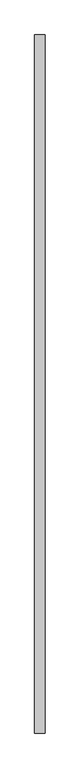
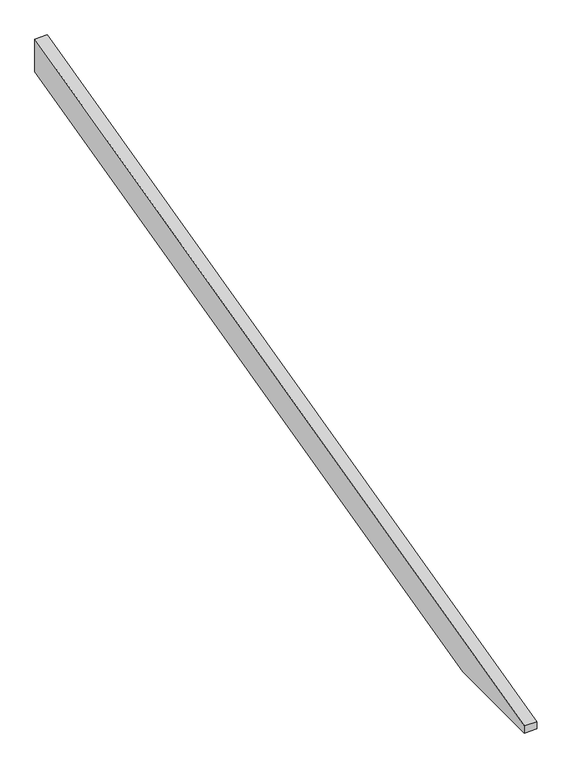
"""IFC4 building model written with IfcOpenShell, lengths in millimetres: proxy geometry, Modelos genéricos 91 : Modelos genéricos 12."""

from ifc_helpers import new_model, si_unit, frame, origin, place, context, project, spatial, polyline, outline, extrude, source, transform, mapped, element, save


def generic_models_937c8a6a(model_context):
    return source(origin(), model_context, "Body", "SweptSolid", [
        extrude(outline(polyline([(-2181.3761835, 3197.4798401), (1878.6238165, 4209.7515316), (1878.6238165, 4044.8533509), (-1670.3291324, 3160.0), (-2181.3761835, 3160.0), (-2181.3761835, 3197.4798401)])), frame((1923.4472467, 0.0, 0.0), z_axis=(1.0, 0.0, 0.0), x_axis=(0.0, 1.0, 0.0)), (0.0, 0.0, 1.0), 60.0),
    ])


if __name__ == "__main__":
    model = new_model("IFC4")
    model_context = context("Model", 3, world=origin())
    ifc_project = project(units=[si_unit("LENGTHUNIT", "METRE", prefix="MILLI")], contexts=[model_context])
    site = spatial("IfcSite", under=ifc_project)
    building = spatial("IfcBuilding", under=site)
    placement = place(None, origin())
    generic_models_shape = generic_models_937c8a6a(model_context)
    element("IfcBuildingElementProxy", 1, Name="Modelos genéricos 91 : Modelos genéricos 12", ObjectType="Modelos genéricos 91 : Modelos genéricos 12", at=placement, inside=building, context=model_context, shape_type="MappedRepresentation", body=[
        mapped(generic_models_shape, transform((0.0, 0.0, 0.0), x_axis=(1.0, 0.0, 0.0), y_axis=(0.0, 1.0, 0.0), z_axis=(0.0, 0.0, 1.0))),
    ])
    save(model, "model.ifc")
